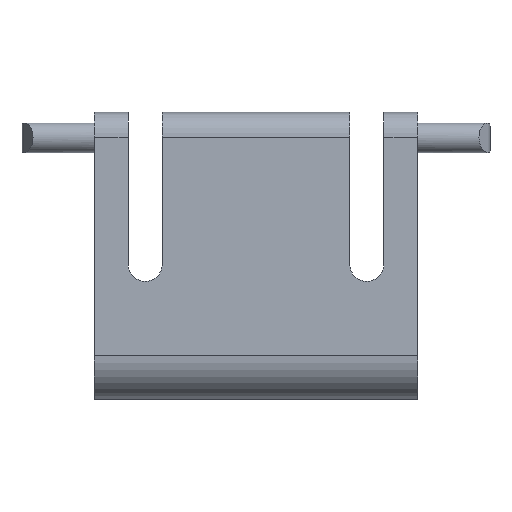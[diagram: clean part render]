
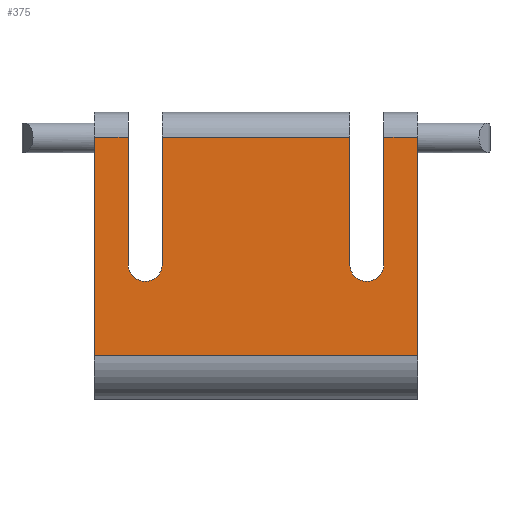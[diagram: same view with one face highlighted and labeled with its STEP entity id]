
A CAD part, top view. The second image highlights one B-rep face of the part: STEP entity #375.
In plain terms, the highlighted planar face has unit normal (0, 0.026, 1).
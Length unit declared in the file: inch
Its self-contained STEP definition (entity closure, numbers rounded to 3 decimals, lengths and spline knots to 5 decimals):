
#28=LINE('',#567,#59);
#34=LINE('',#583,#65);
#36=LINE('',#591,#67);
#41=LINE('',#605,#72);
#42=LINE('',#609,#73);
#47=LINE('',#623,#78);
#48=LINE('',#627,#79);
#49=LINE('',#628,#80);
#50=LINE('',#629,#81);
#51=LINE('',#631,#82);
#59=VECTOR('',#453,1.);
#65=VECTOR('',#467,1.);
#67=VECTOR('',#475,1.);
#72=VECTOR('',#484,1.);
#73=VECTOR('',#489,1.);
#78=VECTOR('',#498,1.);
#79=VECTOR('',#503,1.);
#80=VECTOR('',#504,1.);
#81=VECTOR('',#505,1.);
#82=VECTOR('',#508,1.);
#122=ORIENTED_EDGE('',*,*,#210,.F.);
#123=ORIENTED_EDGE('',*,*,#226,.T.);
#124=ORIENTED_EDGE('',*,*,#206,.T.);
#125=ORIENTED_EDGE('',*,*,#227,.T.);
#126=ORIENTED_EDGE('',*,*,#198,.F.);
#127=ORIENTED_EDGE('',*,*,#228,.T.);
#128=ORIENTED_EDGE('',*,*,#224,.T.);
#129=ORIENTED_EDGE('',*,*,#229,.T.);
#130=ORIENTED_EDGE('',*,*,#218,.T.);
#131=ORIENTED_EDGE('',*,*,#230,.T.);
#132=ORIENTED_EDGE('',*,*,#216,.T.);
#133=ORIENTED_EDGE('',*,*,#231,.T.);
#198=EDGE_CURVE('',#251,#252,#28,.T.);
#206=EDGE_CURVE('',#258,#259,#34,.T.);
#210=EDGE_CURVE('',#261,#262,#36,.T.);
#216=EDGE_CURVE('',#268,#267,#41,.T.);
#218=EDGE_CURVE('',#269,#270,#42,.T.);
#224=EDGE_CURVE('',#276,#275,#47,.T.);
#226=EDGE_CURVE('',#261,#258,#48,.F.);
#227=EDGE_CURVE('',#259,#252,#49,.F.);
#228=EDGE_CURVE('',#251,#276,#50,.T.);
#229=EDGE_CURVE('',#275,#269,#295,.T.);
#230=EDGE_CURVE('',#270,#268,#51,.T.);
#231=EDGE_CURVE('',#267,#262,#296,.T.);
#251=VERTEX_POINT('',#566);
#252=VERTEX_POINT('',#568);
#258=VERTEX_POINT('',#584);
#259=VERTEX_POINT('',#585);
#261=VERTEX_POINT('',#592);
#262=VERTEX_POINT('',#593);
#267=VERTEX_POINT('',#604);
#268=VERTEX_POINT('',#606);
#269=VERTEX_POINT('',#610);
#270=VERTEX_POINT('',#611);
#275=VERTEX_POINT('',#622);
#276=VERTEX_POINT('',#624);
#295=CIRCLE('',#422,0.001);
#296=CIRCLE('',#423,0.001);
#310=EDGE_LOOP('',(#122,#123,#124,#125,#126,#127,#128,#129,#130,#131,#132,#133));
#337=FACE_BOUND('',#310,.T.);
#362=PLANE('',#421);
#375=ADVANCED_FACE('',(#337),#362,.F.);
#421=AXIS2_PLACEMENT_3D('',#626,#501,#502);
#422=AXIS2_PLACEMENT_3D('',#630,#506,#507);
#423=AXIS2_PLACEMENT_3D('',#632,#509,#510);
#453=DIRECTION('',(0.,-1.,0.026));
#467=DIRECTION('',(0.,-1.,0.026));
#475=DIRECTION('',(0.,-1.,0.026));
#484=DIRECTION('',(0.,-1.,0.026));
#489=DIRECTION('',(0.,1.,-0.026));
#498=DIRECTION('',(0.,-1.,0.026));
#501=DIRECTION('',(0.,-0.026,-1.));
#502=DIRECTION('',(1.,0.,0.));
#503=DIRECTION('',(1.,0.,0.));
#504=DIRECTION('',(-1.,0.,0.));
#505=DIRECTION('',(-1.,0.,0.));
#506=DIRECTION('',(0.,-0.026,-1.));
#507=DIRECTION('',(0.,1.,-0.026));
#508=DIRECTION('',(-1.,0.,0.));
#509=DIRECTION('',(0.,-0.026,-1.));
#510=DIRECTION('',(0.,1.,-0.026));
#566=CARTESIAN_POINT('',(0.40582,-0.02463,-0.00771));
#567=CARTESIAN_POINT('',(0.40582,-0.03157,-0.00753));
#568=CARTESIAN_POINT('',(0.40582,-0.03751,-0.00738));
#583=CARTESIAN_POINT('',(0.38677,-0.03157,-0.00753));
#584=CARTESIAN_POINT('',(0.38677,-0.02463,-0.00771));
#585=CARTESIAN_POINT('',(0.38677,-0.03751,-0.00738));
#591=CARTESIAN_POINT('',(0.38877,-0.02813,-0.00762));
#592=CARTESIAN_POINT('',(0.38877,-0.02463,-0.00771));
#593=CARTESIAN_POINT('',(0.38877,-0.03213,-0.00752));
#604=CARTESIAN_POINT('',(0.39077,-0.03213,-0.00752));
#605=CARTESIAN_POINT('',(0.39077,-0.02813,-0.00762));
#606=CARTESIAN_POINT('',(0.39077,-0.02463,-0.00771));
#609=CARTESIAN_POINT('',(0.40182,-0.02813,-0.00762));
#610=CARTESIAN_POINT('',(0.40182,-0.03213,-0.00752));
#611=CARTESIAN_POINT('',(0.40182,-0.02463,-0.00771));
#622=CARTESIAN_POINT('',(0.40382,-0.03213,-0.00752));
#623=CARTESIAN_POINT('',(0.40382,-0.02813,-0.00762));
#624=CARTESIAN_POINT('',(0.40382,-0.02463,-0.00771));
#626=CARTESIAN_POINT('',(0.2124,-0.06699,-0.0066));
#627=CARTESIAN_POINT('',(0.38677,-0.02463,-0.00771));
#628=CARTESIAN_POINT('',(0.40582,-0.03751,-0.00738));
#629=CARTESIAN_POINT('',(0.2124,-0.02463,-0.00771));
#630=CARTESIAN_POINT('',(0.40282,-0.03213,-0.00752));
#631=CARTESIAN_POINT('',(0.2124,-0.02463,-0.00771));
#632=CARTESIAN_POINT('',(0.38977,-0.03213,-0.00752));
